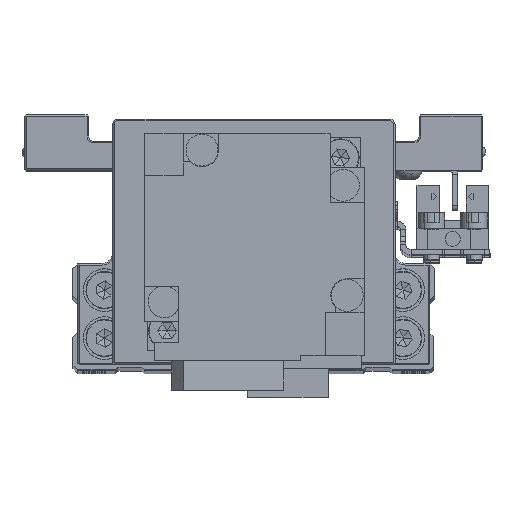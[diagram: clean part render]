
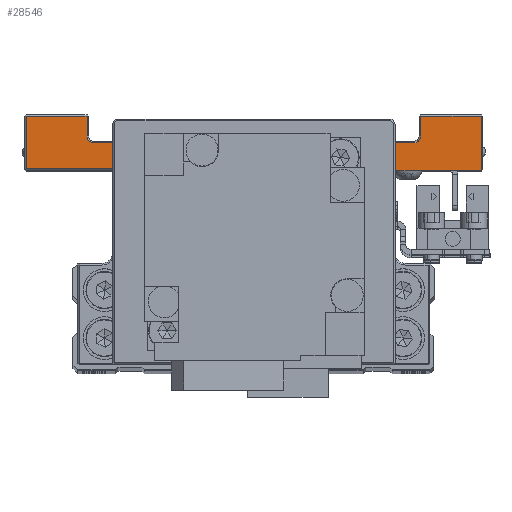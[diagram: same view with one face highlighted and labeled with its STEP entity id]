
A CAD part, top view. The second image highlights one B-rep face of the part: STEP entity #28546.
In plain terms, the highlighted planar face has unit normal (0, 0, 1) as drawn and (1, 0, 0) by its records, which use the part's own axes.
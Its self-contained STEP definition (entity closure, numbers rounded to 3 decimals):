
#80 = CARTESIAN_POINT ( 'NONE',  ( 45., 7.8, 42.7 ) ) ;
#289 = AXIS2_PLACEMENT_3D ( 'NONE', #15494, #26445, #1817 ) ;
#782 = LINE ( 'NONE', #11756, #14212 ) ;
#940 = CARTESIAN_POINT ( 'NONE',  ( 45., 14., 31.3 ) ) ;
#1817 = DIRECTION ( 'NONE',  ( 0., 0., 1. ) ) ;
#2024 = CIRCLE ( 'NONE', #22117, 1.3 ) ;
#2686 = CARTESIAN_POINT ( 'NONE',  ( 45., -8.2, -19.7 ) ) ;
#2781 = CARTESIAN_POINT ( 'NONE',  ( 45., 7.8, 19.7 ) ) ;
#3016 = CARTESIAN_POINT ( 'NONE',  ( 45., 17.7, -20. ) ) ;
#4518 = PLANE ( 'NONE',  #289 ) ;
#4551 = EDGE_CURVE ( 'NONE', #33973, #24697, #27635, .T. ) ;
#4624 = LINE ( 'NONE', #15592, #30678 ) ;
#4751 = ORIENTED_EDGE ( 'NONE', *, *, #17072, .T. ) ;
#5074 = CARTESIAN_POINT ( 'NONE',  ( 45., 7.5, 42.7 ) ) ;
#5523 = DIRECTION ( 'NONE',  ( -1., 0., 0. ) ) ;
#5633 = DIRECTION ( 'NONE',  ( 0., 0., 1. ) ) ;
#5856 = EDGE_CURVE ( 'NONE', #24697, #17396, #29648, .T. ) ;
#6216 = VECTOR ( 'NONE', #29551, 1000. ) ;
#6291 = VERTEX_POINT ( 'NONE', #32779 ) ;
#6424 = CARTESIAN_POINT ( 'NONE',  ( 45., 7.8, 20. ) ) ;
#6710 = ORIENTED_EDGE ( 'NONE', *, *, #22021, .T. ) ;
#7001 = CARTESIAN_POINT ( 'NONE',  ( 45., 7.5, -19.7 ) ) ;
#7673 = LINE ( 'NONE', #18627, #6216 ) ;
#7730 = EDGE_CURVE ( 'NONE', #25589, #21849, #7673, .T. ) ;
#7760 = CARTESIAN_POINT ( 'NONE',  ( 45., 14., 30. ) ) ;
#8215 = CARTESIAN_POINT ( 'NONE',  ( 45., 17.7, 31.3 ) ) ;
#8450 = LINE ( 'NONE', #19427, #29067 ) ;
#8520 = ORIENTED_EDGE ( 'NONE', *, *, #32785, .T. ) ;
#8604 = ORIENTED_EDGE ( 'NONE', *, *, #7730, .T. ) ;
#8807 = ORIENTED_EDGE ( 'NONE', *, *, #33244, .T. ) ;
#8898 = ORIENTED_EDGE ( 'NONE', *, *, #29984, .T. ) ;
#9015 = CARTESIAN_POINT ( 'NONE',  ( 45., -8.2, -20. ) ) ;
#9499 = DIRECTION ( 'NONE',  ( 0., -1., 0. ) ) ;
#10317 = CARTESIAN_POINT ( 'NONE',  ( 45., 12.7, 30. ) ) ;
#10590 = EDGE_CURVE ( 'NONE', #17443, #28177, #19275, .T. ) ;
#10968 = LINE ( 'NONE', #21921, #12618 ) ;
#11081 = LINE ( 'NONE', #22034, #20040 ) ;
#11756 = CARTESIAN_POINT ( 'NONE',  ( 45., 7.5, 31.3 ) ) ;
#12349 = ORIENTED_EDGE ( 'NONE', *, *, #4551, .T. ) ;
#12618 = VECTOR ( 'NONE', #32832, 1000. ) ;
#13377 = VERTEX_POINT ( 'NONE', #940 ) ;
#13646 = EDGE_CURVE ( 'NONE', #28177, #13377, #2024, .T. ) ;
#13987 = DIRECTION ( 'NONE',  ( 0., 0., 1. ) ) ;
#14212 = VECTOR ( 'NONE', #22716, 1000. ) ;
#14243 = VECTOR ( 'NONE', #19988, 1000. ) ;
#15052 = CARTESIAN_POINT ( 'NONE',  ( 45., 17.7, -42.7 ) ) ;
#15494 = CARTESIAN_POINT ( 'NONE',  ( 45., 7.5, -20. ) ) ;
#15592 = CARTESIAN_POINT ( 'NONE',  ( 45., 7.5, 43. ) ) ;
#15949 = ORIENTED_EDGE ( 'NONE', *, *, #10590, .T. ) ;
#16046 = DIRECTION ( 'NONE',  ( 0., -1., 0. ) ) ;
#16439 = CARTESIAN_POINT ( 'NONE',  ( 45., 17.7, 42.7 ) ) ;
#16496 = DIRECTION ( 'NONE',  ( 0., 0., 1. ) ) ;
#16518 = AXIS2_PLACEMENT_3D ( 'NONE', #30097, #5523, #16496 ) ;
#16931 = EDGE_CURVE ( 'NONE', #34235, #33487, #11081, .T. ) ;
#16956 = VECTOR ( 'NONE', #13987, 1000. ) ;
#17035 = VECTOR ( 'NONE', #16046, 1000. ) ;
#17072 = EDGE_CURVE ( 'NONE', #17396, #20621, #30997, .T. ) ;
#17372 = DIRECTION ( 'NONE',  ( 0., 0., -1. ) ) ;
#17396 = VERTEX_POINT ( 'NONE', #80 ) ;
#17443 = VERTEX_POINT ( 'NONE', #30427 ) ;
#17798 = EDGE_CURVE ( 'NONE', #24828, #34235, #10968, .T. ) ;
#18291 = VECTOR ( 'NONE', #5633, 1000. ) ;
#18627 = CARTESIAN_POINT ( 'NONE',  ( 45., 7.5, -19.7 ) ) ;
#18722 = DIRECTION ( 'NONE',  ( -1., 0., 0. ) ) ;
#19275 = LINE ( 'NONE', #30206, #18291 ) ;
#19427 = CARTESIAN_POINT ( 'NONE',  ( 45., 7.5, -31.3 ) ) ;
#19594 = ORIENTED_EDGE ( 'NONE', *, *, #17798, .T. ) ;
#19988 = DIRECTION ( 'NONE',  ( 0., 0., -1. ) ) ;
#20040 = VECTOR ( 'NONE', #32946, 1000. ) ;
#20621 = VERTEX_POINT ( 'NONE', #2781 ) ;
#21186 = VECTOR ( 'NONE', #17372, 1000. ) ;
#21564 = CARTESIAN_POINT ( 'NONE',  ( 45., 17.7, -31.3 ) ) ;
#21849 = VERTEX_POINT ( 'NONE', #7001 ) ;
#21921 = CARTESIAN_POINT ( 'NONE',  ( 45., 7.5, -42.7 ) ) ;
#22021 = EDGE_CURVE ( 'NONE', #27562, #17443, #31957, .T. ) ;
#22034 = CARTESIAN_POINT ( 'NONE',  ( 45., 17.7, -20. ) ) ;
#22117 = AXIS2_PLACEMENT_3D ( 'NONE', #7760, #18722, #29652 ) ;
#22310 = ORIENTED_EDGE ( 'NONE', *, *, #13646, .T. ) ;
#22716 = DIRECTION ( 'NONE',  ( 0., 1., 0. ) ) ;
#23077 = EDGE_CURVE ( 'NONE', #20621, #6291, #23167, .T. ) ;
#23167 = LINE ( 'NONE', #34071, #31449 ) ;
#24697 = VERTEX_POINT ( 'NONE', #16439 ) ;
#24828 = VERTEX_POINT ( 'NONE', #28107 ) ;
#25589 = VERTEX_POINT ( 'NONE', #2686 ) ;
#26445 = DIRECTION ( 'NONE',  ( -1., 0., 0. ) ) ;
#26528 = DIRECTION ( 'NONE',  ( 0., 0., -1. ) ) ;
#27562 = VERTEX_POINT ( 'NONE', #33374 ) ;
#27635 = LINE ( 'NONE', #3016, #16956 ) ;
#28107 = CARTESIAN_POINT ( 'NONE',  ( 45., 7.5, -42.7 ) ) ;
#28177 = VERTEX_POINT ( 'NONE', #10317 ) ;
#28546 = ADVANCED_FACE ( 'NONE', ( #29102 ), #4518, .F. ) ;
#28829 = ORIENTED_EDGE ( 'NONE', *, *, #30727, .T. ) ;
#29055 = ORIENTED_EDGE ( 'NONE', *, *, #23077, .T. ) ;
#29067 = VECTOR ( 'NONE', #30356, 1000. ) ;
#29102 = FACE_OUTER_BOUND ( 'NONE', #31403, .T. ) ;
#29551 = DIRECTION ( 'NONE',  ( 0., 1., 0. ) ) ;
#29648 = LINE ( 'NONE', #5074, #17035 ) ;
#29652 = DIRECTION ( 'NONE',  ( 0., 0., 1. ) ) ;
#29984 = EDGE_CURVE ( 'NONE', #33487, #27562, #8450, .T. ) ;
#30097 = CARTESIAN_POINT ( 'NONE',  ( 45., 14., -30. ) ) ;
#30206 = CARTESIAN_POINT ( 'NONE',  ( 45., 12.7, 30. ) ) ;
#30356 = DIRECTION ( 'NONE',  ( 0., -1., 0. ) ) ;
#30427 = CARTESIAN_POINT ( 'NONE',  ( 45., 12.7, -30. ) ) ;
#30678 = VECTOR ( 'NONE', #26528, 1000. ) ;
#30727 = EDGE_CURVE ( 'NONE', #21849, #24828, #4624, .T. ) ;
#30997 = LINE ( 'NONE', #6424, #21186 ) ;
#31403 = EDGE_LOOP ( 'NONE', ( #8604, #28829, #19594, #32452, #8898, #6710, #15949, #22310, #8520, #12349, #34290, #4751, #29055, #8807 ) ) ;
#31449 = VECTOR ( 'NONE', #9499, 1000. ) ;
#31957 = CIRCLE ( 'NONE', #16518, 1.3 ) ;
#32452 = ORIENTED_EDGE ( 'NONE', *, *, #16931, .T. ) ;
#32779 = CARTESIAN_POINT ( 'NONE',  ( 45., -8.2, 19.7 ) ) ;
#32785 = EDGE_CURVE ( 'NONE', #13377, #33973, #782, .T. ) ;
#32832 = DIRECTION ( 'NONE',  ( 0., 1., 0. ) ) ;
#32946 = DIRECTION ( 'NONE',  ( 0., 0., 1. ) ) ;
#33244 = EDGE_CURVE ( 'NONE', #6291, #25589, #33580, .T. ) ;
#33374 = CARTESIAN_POINT ( 'NONE',  ( 45., 14., -31.3 ) ) ;
#33487 = VERTEX_POINT ( 'NONE', #21564 ) ;
#33580 = LINE ( 'NONE', #9015, #14243 ) ;
#33973 = VERTEX_POINT ( 'NONE', #8215 ) ;
#34071 = CARTESIAN_POINT ( 'NONE',  ( 45., 7.5, 19.7 ) ) ;
#34235 = VERTEX_POINT ( 'NONE', #15052 ) ;
#34290 = ORIENTED_EDGE ( 'NONE', *, *, #5856, .T. ) ;
